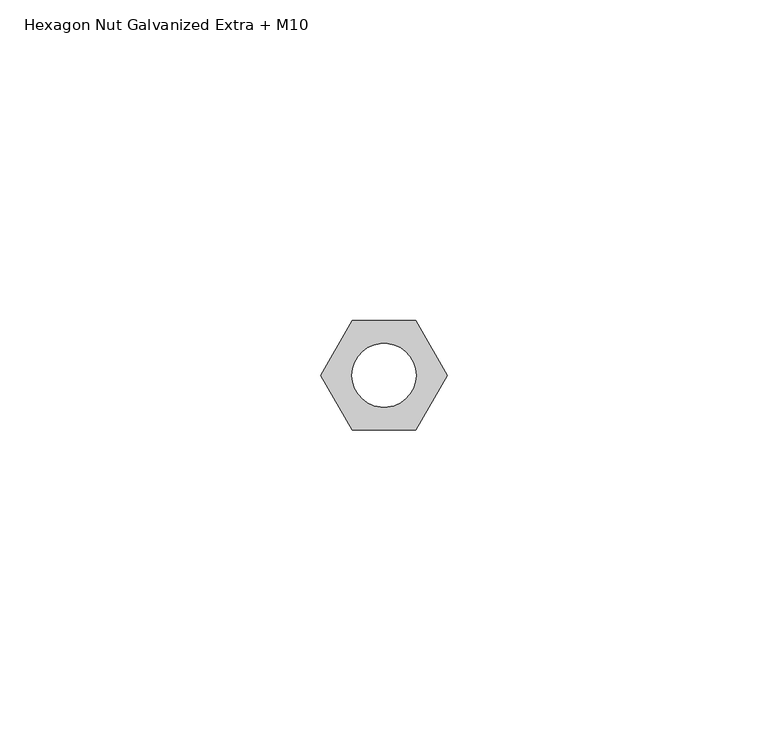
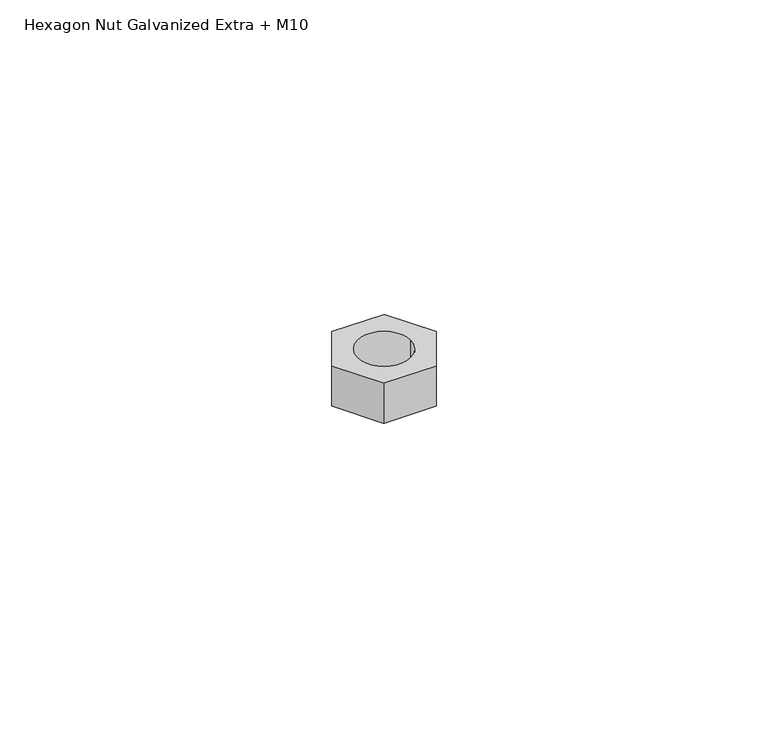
"""IFC4 building model written with IfcOpenShell, lengths in millimetres: valve geometry, Superfix Hexagon Nut Galvanized : Hexagon Nut Galvanized Extra + M10."""

from ifc_helpers import new_model, si_unit, point, origin, origin_with_axes, origin_2d, place, context, project, spatial, polyline, circle_curve, trimmed, segment, composite_curve, outline, extrude, source, transform, mapped, element, save


def hexagon_nut_galvanized_extra_m10_fcef541f(model_context):
    return source(origin(), model_context, "Body", "SweptSolid", [
        extrude(outline(polyline([(-9.8149546, 0.0), (-4.9074773, 8.5), (4.9074773, 8.5), (9.8149546, 0.0), (4.9074773, -8.5), (-4.9074773, -8.5), (-9.8149546, 0.0)]), holes=[composite_curve([segment(trimmed(circle_curve(origin_2d(), 5.0), [point((-5.0, 0.0))], [point((5.0, 0.0))], True, "CARTESIAN"), True, "CONTINUOUS"), segment(trimmed(circle_curve(origin_2d(), 5.0), [point((5.0, 0.0))], [point((-5.0, 0.0))], True, "CARTESIAN"), True, "CONTINUOUS")], self_intersect=False)]), origin_with_axes(), (0.0, 0.0, 1.0), 8.0),
    ])


if __name__ == "__main__":
    model = new_model("IFC4")
    model_context = context("Model", 3, world=origin())
    ifc_project = project(units=[si_unit("LENGTHUNIT", "METRE", prefix="MILLI")], contexts=[model_context])
    site = spatial("IfcSite", under=ifc_project)
    building = spatial("IfcBuilding", under=site)
    placement = place(None, origin())
    hexagon_nut_galvanized_extra_m10_shape = hexagon_nut_galvanized_extra_m10_fcef541f(model_context)
    element("IfcValve", 1, ObjectType="Superfix Hexagon Nut Galvanized : Hexagon Nut Galvanized Extra + M10", at=placement, inside=building, context=model_context, shape_type="MappedRepresentation", body=[
        mapped(hexagon_nut_galvanized_extra_m10_shape, transform((0.0, 0.0, 0.0), x_axis=(1.0, 0.0, 0.0), y_axis=(0.0, 1.0, 0.0), z_axis=(0.0, 0.0, 1.0))),
    ])
    save(model, "model.ifc")
